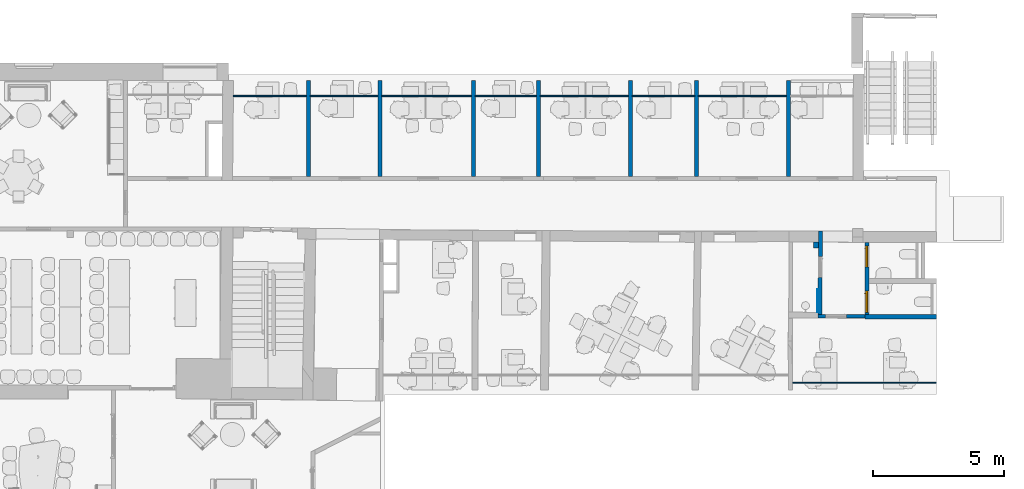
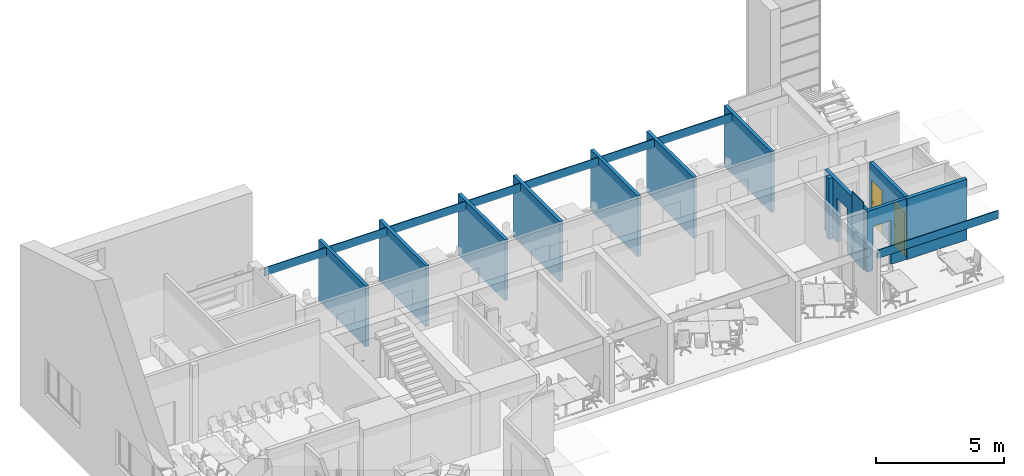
# One storey, part 6 of 19: 21 walls, 2 doors, 4 openings.
"""IFC2X3 building model written with IfcOpenShell, lengths in millimetres."""

from ifc_helpers import new_model, entity, si_unit, converted_unit, derived_unit, direction, frame, frame_2d, origin, place, context, subcontext, project, spatial, polyline, rectangle, outline, extrude, clip, bounded_halfspace, faceted_brep, source, transform, mapped, material, material_list, layer, layer_set, layer_usage, type_object, type_shapes, element, fill, save


model = new_model("IFC2X3")

# Units and contexts
model_context = context("Model", 3, precision=0.01, world=origin(), true_north=direction((6.12303176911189e-17, 1.0)))
context_of_model = context(None, 3, precision=0.01, world=origin(), true_north=direction((6.12303176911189e-17, 1.0)))
body_context = subcontext(model_context, "Body", "Model", "MODEL_VIEW")
ifc_project = project(units=[si_unit("LENGTHUNIT", "METRE", prefix="MILLI"), si_unit("AREAUNIT", "SQUARE_METRE"), si_unit("VOLUMEUNIT", "CUBIC_METRE"), converted_unit("PLANEANGLEUNIT", "DEGREE", entity("IfcRatioMeasure", 0.0174532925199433), si_unit("PLANEANGLEUNIT", "RADIAN"), dimensions=[0, 0, 0, 0, 0, 0, 0]), si_unit("MASSUNIT", "GRAM", prefix="KILO"), derived_unit("MASSDENSITYUNIT", [(si_unit("MASSUNIT", "GRAM", prefix="KILO"), 1), (si_unit("LENGTHUNIT", "METRE"), -3)]), si_unit("TIMEUNIT", "SECOND"), si_unit("FREQUENCYUNIT", "HERTZ"), si_unit("THERMODYNAMICTEMPERATUREUNIT", "DEGREE_CELSIUS"), derived_unit("THERMALTRANSMITTANCEUNIT", [(si_unit("MASSUNIT", "GRAM", prefix="KILO"), 1), (si_unit("THERMODYNAMICTEMPERATUREUNIT", "KELVIN"), -1), (si_unit("TIMEUNIT", "SECOND"), -3)]), derived_unit("VOLUMETRICFLOWRATEUNIT", [(si_unit("LENGTHUNIT", "METRE"), 3), (si_unit("TIMEUNIT", "SECOND"), -1)]), si_unit("ELECTRICCURRENTUNIT", "AMPERE"), si_unit("ELECTRICVOLTAGEUNIT", "VOLT"), si_unit("POWERUNIT", "WATT"), si_unit("FORCEUNIT", "NEWTON", prefix="KILO"), si_unit("ILLUMINANCEUNIT", "LUX"), si_unit("LUMINOUSFLUXUNIT", "LUMEN"), si_unit("LUMINOUSINTENSITYUNIT", "CANDELA"), derived_unit("USERDEFINED", [(si_unit("MASSUNIT", "GRAM", prefix="KILO"), -1), (si_unit("LENGTHUNIT", "METRE"), -2), (si_unit("TIMEUNIT", "SECOND"), 3), (si_unit("LUMINOUSFLUXUNIT", "LUMEN"), 1)]), derived_unit("LINEARVELOCITYUNIT", [(si_unit("LENGTHUNIT", "METRE"), 1), (si_unit("TIMEUNIT", "SECOND"), -1)]), si_unit("PRESSUREUNIT", "PASCAL"), derived_unit("USERDEFINED", [(si_unit("LENGTHUNIT", "METRE"), -2), (si_unit("MASSUNIT", "GRAM", prefix="KILO"), 1), (si_unit("TIMEUNIT", "SECOND"), -2)])], contexts=[model_context, context_of_model])

# Site, building, storey
site_placement = place(None, frame((121442.264707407, 135347.995453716, -1800.0)))
site = spatial("IfcSite", under=ifc_project, at=site_placement, Name="Surface", CompositionType="ELEMENT")
building_placement = place(site_placement, origin())
building = spatial("IfcBuilding", under=site, at=building_placement, CompositionType="ELEMENT")
storey_placement = place(building_placement, frame((0.0, 0.0, 5125.0)))
storey = spatial("IfcBuildingStorey", under=building, at=storey_placement, Name="2 korrus", CompositionType="ELEMENT", Elevation=5125.00000000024)

# Wall, opening
ifc_material_1 = material(Name="__Betoonelement")
ifc_layer_1 = layer(ifc_material_1, 150.0)
ifc_layer_set_1 = layer_set([ifc_layer_1], Name="Basic Wall:15_Betoon")
ifc_layer_usage_1 = layer_usage(ifc_layer_set_1, "AXIS2", "POSITIVE", -75.0)
wall_type_1 = type_object("IfcWallType", Name="Basic Wall:15_Betoon", PredefinedType="STANDARD", material=ifc_layer_set_1)
wall_1_placement = place(storey_placement, frame((-86953.8739707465, -124254.880032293, 0.0), z_axis=(0.0, 0.0, 1.0), x_axis=(0.00526575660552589, 0.999986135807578, 0.0)))
wall_1 = element("IfcWallStandardCase", 1, at=wall_1_placement, inside=storey, type_object=wall_type_1, material=ifc_layer_usage_1, Name="Basic Wall:15_Betoon", ObjectType="Basic Wall:15_Betoon", context=body_context, shape_type="Clipping", body=[
    clip(clip(clip(extrude(outline(polyline([(0.789874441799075, -75.0), (3181.96077080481, -75.0), (3181.17089636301, 75.0), (2771.16521197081, 75.0), (2531.1685393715, 73.7362184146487), (2531.161884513, 75.0), (80.1818955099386, 75.0), (0.0, 75.0), (0.789874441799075, -75.0)])), origin(), (0.0, 0.0, 1.0), 2897.0), bounded_halfspace(frame((0.789874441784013, -75.0, 2897.0), z_axis=(0.0, 0.0, -1.0), x_axis=(-0.999986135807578, -0.00526575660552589, 0.0)), True, frame((0.789874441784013, -75.0, 2897.0)), polyline([(0.0, 0.0), (3181.17089636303, 0.0), (3180.38102192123, 150.0), (2770.37533752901, 150.0), (2530.3786649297, 148.736218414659), (2530.37201007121, 150.0), (79.3920210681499, 150.0), (-0.789874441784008, 150.0), (0.0, 0.0)]))), bounded_halfspace(frame((2531.16853937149, 73.7362184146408, 0.0), z_axis=(0.00526575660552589, -0.999986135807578, 0.0), x_axis=(0.999986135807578, 0.00526575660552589, 0.0)), True, frame((2531.16853937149, 73.7362184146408, 0.0), z_axis=(0.00526575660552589, -0.999986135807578, 0.0), x_axis=(0.999986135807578, 0.00526575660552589, 0.0)), polyline([(0.0, 0.0), (240.0, 0.0), (240.0, 2897.0), (0.0, 2897.0), (0.0, 0.0)]))), bounded_halfspace(frame((2531.16853937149, 73.7362184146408, 2897.0), z_axis=(-0.999986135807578, -0.00526575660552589, 0.0), x_axis=(0.00526575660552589, -0.999986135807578, 0.0)), True, frame((2531.16853937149, 73.7362184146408, 2897.0), z_axis=(-0.999986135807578, -0.00526575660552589, 0.0), x_axis=(0.00526575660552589, -0.999986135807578, 0.0)), polyline([(0.0, 0.0), (-1.26379910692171, 0.0), (-1.26379910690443, -2897.0), (0.0, -2897.0), (0.0, 0.0)]))),
])
opening_1_placement = place(wall_1_placement, frame((2214.42491058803, 75.0, 0.0)))
element("IfcOpeningElement", 2, at=opening_1_placement, cuts=wall_1, Name="sma_D01:810 x 2110_SU-04 Siseuks:1", ObjectType="Opening", context=body_context, shape_type="SweptSolid", body=[
    extrude(rectangle(XDim=2099.99999999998, YDim=810.0, at=frame_2d((1049.99999999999, 405.0), x_axis=(1.0, 0.0))), frame((0.0, 0.0, 0.0), z_axis=(0.0, -1.0, 0.0), x_axis=(0.0, 0.0, 1.0)), (0.0, 0.0, 1.0), 150.0),
])

ifc_layer_2 = layer(ifc_material_1, 140.0)
ifc_layer_set_2 = layer_set([ifc_layer_2], Name="Basic Wall:14_Betoon 2")
ifc_layer_usage_2 = layer_usage(ifc_layer_set_2, "AXIS2", "NEGATIVE", 70.0)
wall_type_2 = type_object("IfcWallType", Name="Basic Wall:14_Betoon 2", PredefinedType="STANDARD", material=ifc_layer_set_2)
wall_2_placement = place(storey_placement, frame((-85235.5367302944, -124324.485100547, 0.0), z_axis=(0.0, 0.0, 1.0), x_axis=(-1.0, 0.0, 0.0)))
wall_2 = element("IfcWallStandardCase", 3, at=wall_2_placement, inside=storey, type_object=wall_type_2, material=ifc_layer_usage_2, Name="Basic Wall:14_Betoon 2", ObjectType="Basic Wall:14_Betoon 2", context=body_context, shape_type="Clipping", body=[
    clip(extrude(outline(polyline([(0.0, -70.0), (1643.33412097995, -70.0), (1793.33620063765, -70.0), (1794.07341678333, 70.0), (0.0, 70.0), (0.0, -69.6079082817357), (0.0, -70.0)])), origin(), (0.0, 0.0, 1.0), 2897.0), bounded_halfspace(frame((0.0, -70.0, 2897.0), z_axis=(0.0, 0.0, -1.0), x_axis=(0.0, 1.0, 0.0)), True, frame((0.0, -70.0, 2897.0)), polyline([(0.0, 0.0), (1643.33412097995, 0.0), (1793.33620063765, 0.0), (1794.07341678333, 140.0), (0.0, 140.0), (0.0, 0.392091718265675), (0.0, 0.0)]))),
])
opening_2_placement = place(wall_2_placement, frame((1518.6388440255, 70.0, 0.0)))
element("IfcOpeningElement", 4, at=opening_2_placement, cuts=wall_2, Name="sma_D01:810 x 2110_SU-01 Siseuks:1", ObjectType="Opening", context=body_context, shape_type="SweptSolid", body=[
    extrude(rectangle(XDim=2099.99999999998, YDim=810.0, at=frame_2d((1049.99999999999, 405.000000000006), x_axis=(1.0, 0.0))), frame((0.0, 0.0, 0.0), z_axis=(0.0, -1.0, 0.0), x_axis=(0.0, 0.0, 1.0)), (0.0, 0.0, 1.0), 140.0),
])

# Walls
ifc_layer_3 = layer(ifc_material_1, 180.0)
ifc_layer_set_3 = layer_set([ifc_layer_3], Name="Basic Wall:18_Betoon 3")
ifc_layer_usage_3 = layer_usage(ifc_layer_set_3, "AXIS2", "NEGATIVE", 90.0)
wall_type_3 = type_object("IfcWallType", Name="Basic Wall:18_Betoon 3", PredefinedType="STANDARD", material=ifc_layer_set_3)
wall_3_placement = place(storey_placement, frame((-87104.2806494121, -121483.35830855, 0.0), z_axis=(0.0, 0.0, 1.0), x_axis=(0.0, -1.0, 0.0)))
element("IfcWallStandardCase", 5, at=wall_3_placement, inside=storey, type_object=wall_type_3, material=ifc_layer_usage_3, Name="Basic Wall:18_Betoon 3", ObjectType="Basic Wall:18_Betoon 3", context=body_context, shape_type="Clipping", body=[
    clip(extrude(rectangle(XDim=239.999999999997, YDim=179.999999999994, at=frame_2d((119.999999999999, 0.0), x_axis=(-1.0, 0.0))), origin(), (0.0, 0.0, 1.0), 2897.0), bounded_halfspace(frame((0.0, -90.0, 2897.0), z_axis=(0.0, 0.0, -1.0), x_axis=(1.0, 0.0, 0.0)), True, frame((0.0, -90.0, 2897.0)), polyline([(0.0, 0.0), (240.0, 0.0), (240.0, 178.736200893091), (240.0, 180.0), (0.0, 180.0), (0.0, 0.0)]))),
])
ifc_material_2 = material(Name="NCS S 2570-R Syvä punainen, matta, ruisku")
ifc_layer_4 = layer(ifc_material_2, 1.0)
ifc_layer_5 = layer(ifc_material_1, 170.0)
ifc_layer_set_4 = layer_set([ifc_layer_4, ifc_layer_5], Name="Basic Wall:17_Betoon")
ifc_layer_usage_4 = layer_usage(ifc_layer_set_4, "AXIS2", "NEGATIVE", 85.5)
wall_type_4 = type_object("IfcWallType", Name="Basic Wall:17_Betoon", PredefinedType="NOTDEFINED")
wall_4_placement = place(storey_placement, frame((-82525.9803800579, -124340.377192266, 0.0), z_axis=(0.0, 0.0, 1.0), x_axis=(-1.0, 0.0, 0.0)))
element("IfcWallStandardCase", 6, at=wall_4_placement, inside=storey, type_object=wall_type_4, material=ifc_layer_usage_4, Name="Basic Wall:17_Betoon", ObjectType="Basic Wall:17_Betoon", context=body_context, shape_type="Clipping", body=[
    clip(extrude(rectangle(XDim=2709.55635023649, YDim=171.000000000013, at=frame_2d((1354.77817511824, -1.76925141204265e-12), x_axis=(-1.0, 0.0))), origin(), (0.0, 0.0, 1.0), 2897.0), bounded_halfspace(frame((0.0, -85.4999999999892, 2897.0), z_axis=(0.0, 0.0, -1.0), x_axis=(0.0, 1.0, 0.0)), True, frame((0.0, -85.4999999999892, 2897.0)), polyline([(0.0, 0.0), (2709.55635023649, 0.0), (2709.55635023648, 139.607908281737), (2709.55635023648, 171.0), (0.0, 171.0), (0.0, 0.0)]))),
])
ifc_layer_6 = layer(ifc_material_1, 30.0)
ifc_layer_set_5 = layer_set([ifc_layer_6], Name="Basic Wall:3_Betoon 3")
ifc_layer_usage_5 = layer_usage(ifc_layer_set_5, "AXIS2", "POSITIVE", -15.0)
wall_type_5 = type_object("IfcWallType", Name="Basic Wall:3_Betoon 3", PredefinedType="STANDARD", material=ifc_layer_set_5)
wall_5_placement = place(storey_placement, frame((-87043.450503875, -124174.225188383, 0.0), z_axis=(0.0, 0.0, 1.0), x_axis=(0.00527522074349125, 0.999986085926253, 0.0)))
element("IfcWallStandardCase", 7, at=wall_5_placement, inside=storey, type_object=wall_type_5, material=ifc_layer_usage_5, Name="Basic Wall:3_Betoon 3", ObjectType="Basic Wall:3_Betoon 3", context=body_context, shape_type="SweptSolid", body=[
    extrude(outline(polyline([(888.678367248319, -15.0), (888.678367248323, 15.0), (0.240895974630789, 15.0), (0.0, -15.0), (888.678367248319, -15.0)])), origin(), (0.0, 0.0, 1.0), 3215.0),
])

# Wall, openings, doors
ifc_material_3 = material(Name="Plaster")
ifc_layer_7 = layer(ifc_material_3, 10.0)
ifc_material_4 = material(Name="EST. Müüritis. Väikeplokk. Kergkruusplokk")
ifc_layer_8 = layer(ifc_material_4, 130.0)
ifc_layer_9 = layer(ifc_material_3, 10.0)
ifc_layer_set_6 = layer_set([ifc_layer_7, ifc_layer_8, ifc_layer_9], Name="Basic Wall:15_FIBO")
ifc_layer_usage_6 = layer_usage(ifc_layer_set_6, "AXIS2", "POSITIVE", -75.0)
wall_type_6 = type_object("IfcWallType", Name="Basic Wall:15_FIBO", PredefinedType="STANDARD", material=ifc_layer_set_6)
wall_6_placement = place(storey_placement, frame((-85160.5367302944, -121507.905996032, 0.0), z_axis=(0.0, 0.0, 1.0), x_axis=(0.0, -1.0, 0.0)))
wall_6 = element("IfcWallStandardCase", 8, at=wall_6_placement, inside=storey, type_object=wall_type_6, material=ifc_layer_usage_6, Name="Basic Wall:15_FIBO", ObjectType="Basic Wall:15_FIBO", context=body_context, shape_type="Clipping", body=[
    clip(extrude(outline(polyline([(0.511416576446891, -75.0), (2746.97119623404, -75.0), (2746.97119623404, 75.0), (0.0, 75.0), (0.511416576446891, -75.0)])), origin(), (0.0, 0.0, 1.0), 2897.0), bounded_halfspace(frame((0.511416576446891, -75.0, 2897.0), z_axis=(0.0, 0.0, -1.0), x_axis=(1.0, 0.0, 0.0)), True, frame((0.511416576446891, -75.0, 2897.0)), polyline([(0.0, 0.0), (2746.45977965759, 0.0), (2746.45977965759, 150.0), (-0.511416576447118, 150.0), (0.0, 0.0)]))),
])
opening_3_placement = place(wall_6_placement, frame((944.461071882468, 75.0, 0.0)))
opening_3 = element("IfcOpeningElement", 9, at=opening_3_placement, cuts=wall_6, Name="sma_D01:810 x 2110_SU-04 Siseuks:1", ObjectType="Opening", context=body_context, shape_type="SweptSolid", body=[
    extrude(rectangle(XDim=2099.99999999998, YDim=810.0, at=frame_2d((1049.99999999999, 405.000000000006), x_axis=(1.0, 0.0))), frame((0.0, 0.0, 0.0), z_axis=(0.0, -1.0, 0.0), x_axis=(0.0, 0.0, 1.0)), (0.0, 0.0, 1.0), 150.0),
])
opening_4_placement = place(wall_6_placement, frame((2668.65956877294, 75.0, 0.0)))
opening_4 = element("IfcOpeningElement", 10, at=opening_4_placement, cuts=wall_6, Name="sma_D01:810 x 2110_SU-04 Siseuks:1", ObjectType="Opening", context=body_context, shape_type="SweptSolid", body=[
    extrude(rectangle(XDim=2099.99999999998, YDim=810.0, at=frame_2d((1049.99999999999, 405.000000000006), x_axis=(1.0, 0.0))), frame((0.0, 0.0, 0.0), z_axis=(0.0, -1.0, 0.0), x_axis=(0.0, 0.0, 1.0)), (0.0, 0.0, 1.0), 150.0),
])
ifc_material_5 = material(Name="Metal - Aluminium")
ifc_material_6 = material(Name="Door - Panel_valge")
ifc_material_list_1 = material_list([ifc_material_5, ifc_material_6])
ifc_material_list_2 = material_list([ifc_material_5, ifc_material_6])
door_style = type_object("IfcDoorStyle", Name="810 x 2110_SU-04 Siseuks", ConstructionType="NOTDEFINED", OperationType="SINGLE_SWING_LEFT", ParameterTakesPrecedence=False, Sizeable=False, material=ifc_material_list_2)
shared_shape = source(origin(), body_context, "Body", "Brep", [
    faceted_brep([(710.0, 40.0, 1112.5), (615.0, 40.0, 1112.5), (615.0, 35.0, 1112.5), (735.0, 35.0, 1112.5), (735.0, 78.0, 1112.5), (710.0, 78.0, 1112.5), (710.0, 40.0, 1087.5), (710.0, 78.0, 1087.5), (735.0, 78.0, 1087.5), (735.0, 35.0, 1087.5), (615.0, 35.0, 1087.5), (615.0, 40.0, 1087.5)], [[[0, 1, 2, 3, 4, 5]], [[6, 7, 8, 9, 10, 11]], [[5, 7, 6, 0]], [[4, 8, 7, 5]], [[3, 9, 8, 4]], [[2, 10, 9, 3]], [[1, 11, 10, 2]], [[0, 6, 11, 1]]]),
    faceted_brep([(697.500000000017, 78.0, 1137.5), (747.500000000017, 78.0, 1137.5), (747.500000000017, 80.0, 1137.5), (697.500000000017, 80.0, 1137.5), (697.500000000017, 78.0, 1017.5), (697.500000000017, 80.0, 1017.5), (747.500000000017, 80.0, 1017.5), (747.500000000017, 78.0, 1017.5)], [[[0, 1, 2, 3]], [[4, 5, 6, 7]], [[3, 5, 4, 0]], [[2, 6, 5, 3]], [[1, 7, 6, 2]], [[0, 4, 7, 1]]]),
    faceted_brep([(710.0, 170.0, 1112.5), (710.0, 132.0, 1112.5), (735.0, 132.0, 1112.5), (735.0, 175.0, 1112.5), (615.0, 175.0, 1112.5), (615.0, 170.0, 1112.5), (710.0, 170.0, 1087.5), (615.0, 170.0, 1087.5), (615.0, 175.0, 1087.5), (735.0, 175.0, 1087.5), (735.0, 132.0, 1087.5), (710.0, 132.0, 1087.5)], [[[0, 1, 2, 3, 4, 5]], [[6, 7, 8, 9, 10, 11]], [[1, 0, 6, 11]], [[2, 1, 11, 10]], [[3, 2, 10, 9]], [[4, 3, 9, 8]], [[5, 4, 8, 7]], [[0, 5, 7, 6]]]),
    faceted_brep([(697.500000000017, 132.0, 1137.5), (697.500000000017, 130.0, 1137.5), (747.500000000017, 130.0, 1137.5), (747.500000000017, 132.0, 1137.5), (697.500000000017, 132.0, 1017.5), (747.500000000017, 132.0, 1017.5), (747.500000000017, 130.0, 1017.5), (697.500000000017, 130.0, 1017.5)], [[[0, 1, 2, 3]], [[4, 5, 6, 7]], [[1, 0, 4, 7]], [[2, 1, 7, 6]], [[3, 2, 6, 5]], [[0, 3, 5, 4]]]),
    faceted_brep([(0.0, 40.0, 0.0), (0.0, 130.0, 0.0), (25.0, 130.0, 0.0), (25.0, 80.0, 0.0), (40.0, 80.0, 0.0), (40.0, 40.0, 0.0), (40.0, 40.0, 2060.0), (770.0, 40.0, 2060.0), (770.0, 40.0, 0.0), (810.0, 40.0, 0.0), (810.0, 40.0, 2100.0), (0.0, 40.0, 2100.0), (40.0, 80.0, 2060.0), (25.0, 80.0, 2075.0), (785.0, 80.0, 2075.0), (785.0, 80.0, 0.0), (770.0, 80.0, 0.0), (770.0, 80.0, 2060.0), (25.0, 130.0, 2075.0), (0.0, 130.0, 2100.0), (810.0, 130.0, 2100.0), (810.0, 130.0, 0.0), (785.0, 130.0, 0.0), (785.0, 130.0, 2075.0)], [[[0, 1, 2, 3, 4, 5]], [[5, 6, 7, 8, 9, 10, 11, 0]], [[4, 12, 6, 5]], [[3, 13, 14, 15, 16, 17, 12, 4]], [[2, 18, 13, 3]], [[1, 19, 20, 21, 22, 23, 18, 2]], [[0, 11, 19, 1]], [[10, 9, 21, 20]], [[9, 8, 16, 15, 22, 21]], [[17, 16, 8, 7]], [[23, 22, 15, 14]], [[12, 17, 7, 6]], [[18, 23, 14, 13]], [[11, 10, 20, 19]]]),
    faceted_brep([(785.0, 80.0, 2075.0), (25.0, 80.0, 2075.0), (25.0, 80.0, 20.0), (785.0, 80.0, 20.0), (785.0, 130.0, 2075.0), (785.0, 130.0, 20.0), (25.0, 130.0, 20.0), (25.0, 130.0, 2075.0)], [[[0, 1, 2, 3]], [[4, 5, 6, 7]], [[3, 5, 4, 0]], [[2, 6, 5, 3]], [[1, 7, 6, 2]], [[0, 4, 7, 1]]]),
    faceted_brep([(40.0, 40.0, 30.0), (40.0, 80.0, 30.0), (40.0, 80.0, 20.0), (40.0, 80.0, 0.0), (40.0, 40.0, 0.0), (770.0, 40.0, 30.0), (770.0, 40.0, 0.0), (770.0, 80.0, 0.0), (770.0, 80.0, 20.0), (770.0, 80.0, 30.0), (25.0, 80.0, 0.0), (25.0, 130.0, 0.0), (785.0, 130.0, 0.0), (785.0, 80.0, 0.0), (25.0, 130.0, 20.0), (25.0, 80.0, 20.0), (785.0, 130.0, 20.0), (785.0, 80.0, 20.0)], [[[0, 1, 2, 3, 4]], [[5, 6, 7, 8, 9]], [[4, 6, 5, 0]], [[3, 10, 11, 12, 13, 7, 6, 4]], [[9, 8, 2, 1]], [[0, 5, 9, 1]], [[14, 11, 10, 15]], [[16, 17, 13, 12]], [[15, 2, 8, 17, 16, 14]], [[10, 3, 2, 15]], [[14, 16, 12, 11]], [[17, 8, 7, 13]]]),
])
type_shapes(door_style, [shared_shape])
door_1_placement = place(opening_3_placement, frame((0.0, 0.0, 0.0), z_axis=(0.0, 0.0, 1.0), x_axis=(-1.0, 0.0, 0.0)))
door_1 = element("IfcDoor", 11, at=door_1_placement, inside=storey, type_object=door_style, material=ifc_material_list_1, Name="sma_D01:810 x 2110_SU-04 Siseuks", ObjectType="810 x 2110_SU-04 Siseuks", OverallHeight=2099.99999999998, OverallWidth=810.000000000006, context=body_context, shape_type="MappedRepresentation", body=[
    mapped(shared_shape, transform((0.0, 0.0, 0.0), scale=1.0)),
])
fill(opening_3, door_1)
ifc_material_list_3 = material_list([ifc_material_5, ifc_material_6])
door_2_placement = place(opening_4_placement, frame((0.0, 0.0, 0.0), z_axis=(0.0, 0.0, 1.0), x_axis=(-1.0, 0.0, 0.0)))
door_2 = element("IfcDoor", 12, at=door_2_placement, inside=storey, type_object=door_style, material=ifc_material_list_3, Name="sma_D01:810 x 2110_SU-04 Siseuks", ObjectType="810 x 2110_SU-04 Siseuks", OverallHeight=2099.99999999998, OverallWidth=810.000000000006, context=body_context, shape_type="MappedRepresentation", body=[
    mapped(shared_shape, transform((0.0, 0.0, 0.0), scale=1.0)),
])
fill(opening_4, door_2)

# Walls
ifc_layer_usage_7 = layer_usage(ifc_layer_set_6, "AXIS2", "POSITIVE", -75.0)
wall_7_placement = place(storey_placement, frame((-88160.7565439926, -118999.337196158, 0.0), z_axis=(0.0, 0.0, 1.0), x_axis=(0.0, 1.0, 0.0)))
element("IfcWallStandardCase", 13, at=wall_7_placement, inside=storey, type_object=wall_type_6, material=ifc_layer_usage_7, Name="Basic Wall:15_FIBO", ObjectType="Basic Wall:15_FIBO", context=body_context, shape_type="Clipping", body=[
    clip(extrude(rectangle(XDim=3657.41808381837, YDim=150.000000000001, at=frame_2d((1828.70904190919, 0.0), x_axis=(-1.0, 0.0))), origin(), (0.0, 0.0, 1.0), 2897.0), bounded_halfspace(frame((0.0, -75.0, 2897.0), z_axis=(0.0, 0.0, -1.0), x_axis=(-1.0, 0.0, 0.0)), True, frame((0.0, -75.0, 2897.0)), polyline([(0.0, 0.0), (3657.41808381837, 0.0), (3657.41808381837, 150.0), (0.0, 150.0), (0.0, 0.0)]))),
])
ifc_layer_usage_8 = layer_usage(ifc_layer_set_6, "AXIS2", "POSITIVE", -75.0)
wall_8_placement = place(storey_placement, frame((-91659.3414792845, -118999.337196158, 0.0), z_axis=(0.0, 0.0, 1.0), x_axis=(0.0, 1.0, 0.0)))
element("IfcWallStandardCase", 14, at=wall_8_placement, inside=storey, type_object=wall_type_6, material=ifc_layer_usage_8, Name="Basic Wall:15_FIBO", ObjectType="Basic Wall:15_FIBO", context=body_context, shape_type="Clipping", body=[
    clip(extrude(rectangle(XDim=3657.41808381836, YDim=150.000000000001, at=frame_2d((1828.70904190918, 0.0), x_axis=(-1.0, 0.0))), origin(), (0.0, 0.0, 1.0), 2897.0), bounded_halfspace(frame((0.0, -75.0, 2897.0), z_axis=(0.0, 0.0, -1.0), x_axis=(-1.0, 0.0, 0.0)), True, frame((0.0, -75.0, 2897.0)), polyline([(0.0, 0.0), (3657.41808381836, 0.0), (3657.41808381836, 150.0), (0.0, 150.0), (0.0, 0.0)]))),
])
ifc_layer_usage_9 = layer_usage(ifc_layer_set_6, "AXIS2", "POSITIVE", -75.0)
wall_9_placement = place(storey_placement, frame((-94180.5045086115, -118999.337196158, 0.0), z_axis=(0.0, 0.0, 1.0), x_axis=(0.0, 1.0, 0.0)))
element("IfcWallStandardCase", 15, at=wall_9_placement, inside=storey, type_object=wall_type_6, material=ifc_layer_usage_9, Name="Basic Wall:15_FIBO", ObjectType="Basic Wall:15_FIBO", context=body_context, shape_type="Clipping", body=[
    clip(extrude(rectangle(XDim=3657.41808381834, YDim=150.000000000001, at=frame_2d((1828.70904190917, 0.0), x_axis=(-1.0, 0.0))), origin(), (0.0, 0.0, 1.0), 2897.0), bounded_halfspace(frame((0.0, -75.0, 2897.0), z_axis=(0.0, 0.0, -1.0), x_axis=(-1.0, 0.0, 0.0)), True, frame((0.0, -75.0, 2897.0)), polyline([(0.0, 0.0), (3657.41808381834, 0.0), (3657.41808381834, 150.0), (0.0, 150.0), (0.0, 0.0)]))),
])
ifc_layer_usage_10 = layer_usage(ifc_layer_set_6, "AXIS2", "POSITIVE", -75.0)
wall_10_placement = place(storey_placement, frame((-97680.5367302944, -118999.337196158, 0.0), z_axis=(0.0, 0.0, 1.0), x_axis=(0.0, 1.0, 0.0)))
element("IfcWallStandardCase", 16, at=wall_10_placement, inside=storey, type_object=wall_type_6, material=ifc_layer_usage_10, Name="Basic Wall:15_FIBO", ObjectType="Basic Wall:15_FIBO", context=body_context, shape_type="Clipping", body=[
    clip(extrude(rectangle(XDim=3657.41808381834, YDim=150.000000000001, at=frame_2d((1828.70904190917, 0.0), x_axis=(-1.0, 0.0))), origin(), (0.0, 0.0, 1.0), 2897.0), bounded_halfspace(frame((0.0, -75.0, 2897.0), z_axis=(0.0, 0.0, -1.0), x_axis=(-1.0, 0.0, 0.0)), True, frame((0.0, -75.0, 2897.0)), polyline([(0.0, 0.0), (3657.41808381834, 0.0), (3657.41808381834, 150.0), (0.0, 150.0), (0.0, 0.0)]))),
])
ifc_layer_usage_11 = layer_usage(ifc_layer_set_6, "AXIS2", "POSITIVE", -75.0)
wall_11_placement = place(storey_placement, frame((-100159.341479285, -118999.337196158, 0.0), z_axis=(0.0, 0.0, 1.0), x_axis=(0.0, 1.0, 0.0)))
element("IfcWallStandardCase", 17, at=wall_11_placement, inside=storey, type_object=wall_type_6, material=ifc_layer_usage_11, Name="Basic Wall:15_FIBO", ObjectType="Basic Wall:15_FIBO", context=body_context, shape_type="Clipping", body=[
    clip(extrude(rectangle(XDim=3657.41808381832, YDim=150.000000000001, at=frame_2d((1828.70904190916, 0.0), x_axis=(-1.0, 0.0))), origin(), (0.0, 0.0, 1.0), 2897.0), bounded_halfspace(frame((0.0, -75.0, 2897.0), z_axis=(0.0, 0.0, -1.0), x_axis=(-1.0, 0.0, 0.0)), True, frame((0.0, -75.0, 2897.0)), polyline([(0.0, 0.0), (3657.41808381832, 0.0), (3657.41808381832, 150.0), (0.0, 150.0), (0.0, 0.0)]))),
])
ifc_layer_usage_12 = layer_usage(ifc_layer_set_6, "AXIS2", "POSITIVE", -75.0)
wall_12_placement = place(storey_placement, frame((-103720.536730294, -118999.337196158, 0.0), z_axis=(0.0, 0.0, 1.0), x_axis=(0.0, 1.0, 0.0)))
element("IfcWallStandardCase", 18, at=wall_12_placement, inside=storey, type_object=wall_type_6, material=ifc_layer_usage_12, Name="Basic Wall:15_FIBO", ObjectType="Basic Wall:15_FIBO", context=body_context, shape_type="Clipping", body=[
    clip(extrude(rectangle(XDim=3657.41808381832, YDim=150.000000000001, at=frame_2d((1828.70904190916, 0.0), x_axis=(-1.0, 0.0))), origin(), (0.0, 0.0, 1.0), 2897.0), bounded_halfspace(frame((0.0, -75.0, 2897.0), z_axis=(0.0, 0.0, -1.0), x_axis=(-1.0, 0.0, 0.0)), True, frame((0.0, -75.0, 2897.0)), polyline([(0.0, 0.0), (3657.41808381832, 0.0), (3657.41808381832, 150.0), (0.0, 150.0), (0.0, 0.0)]))),
])
ifc_layer_usage_13 = layer_usage(ifc_layer_set_6, "AXIS2", "POSITIVE", -75.0)
wall_13_placement = place(storey_placement, frame((-106440.536730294, -118999.337196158, 0.0), z_axis=(0.0, 0.0, 1.0), x_axis=(0.0, 1.0, 0.0)))
element("IfcWallStandardCase", 19, at=wall_13_placement, inside=storey, type_object=wall_type_6, material=ifc_layer_usage_13, Name="Basic Wall:15_FIBO", ObjectType="Basic Wall:15_FIBO", context=body_context, shape_type="Clipping", body=[
    clip(extrude(rectangle(XDim=3657.41808381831, YDim=150.000000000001, at=frame_2d((1828.70904190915, 0.0), x_axis=(-1.0, 0.0))), origin(), (0.0, 0.0, 1.0), 2897.0), bounded_halfspace(frame((0.0, -75.0, 2897.0), z_axis=(0.0, 0.0, -1.0), x_axis=(-1.0, 0.0, 0.0)), True, frame((0.0, -75.0, 2897.0)), polyline([(0.0, 0.0), (3657.41808381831, 0.0), (3657.41808381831, 150.0), (0.0, 150.0), (0.0, 0.0)]))),
])
ifc_material_7 = material(Name="Metal - Stud Layer")
ifc_layer_10 = layer(ifc_material_7, 30.0)
ifc_material_8 = material(Name="Gypsum Wall Board")
ifc_layer_11 = layer(ifc_material_8, 13.0)
ifc_layer_set_7 = layer_set([ifc_layer_10, ifc_layer_11], Name="Basic Wall:Kipssirm 1 kordne")
ifc_layer_usage_14 = layer_usage(ifc_layer_set_7, "AXIS2", "POSITIVE", -21.5)
wall_type_7 = type_object("IfcWallType", Name="Basic Wall:Kipssirm 1 kordne", PredefinedType="STANDARD", material=ifc_layer_set_7)
wall_14_placement = place(storey_placement, frame((-109298.969355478, -115928.952432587, 2500.0)))
element("IfcWallStandardCase", 20, at=wall_14_placement, inside=storey, type_object=wall_type_7, material=ifc_layer_usage_14, Name="Basic Wall:Kipssirm 1 kordne", ObjectType="Basic Wall:Kipssirm 1 kordne", context=body_context, shape_type="SweptSolid", body=[
    extrude(outline(polyline([(2783.43262518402, -21.5000000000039), (2783.43262518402, 21.5000000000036), (0.426844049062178, 21.5000000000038), (0.0, -21.5000000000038), (2783.43262518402, -21.5000000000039)])), origin(), (0.0, 0.0, 1.0), 390.0),
])
ifc_layer_usage_15 = layer_usage(ifc_layer_set_7, "AXIS2", "POSITIVE", -21.5)
wall_15_placement = place(storey_placement, frame((-106365.536730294, -115928.952432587, 2500.0)))
element("IfcWallStandardCase", 21, at=wall_15_placement, inside=storey, type_object=wall_type_7, material=ifc_layer_usage_15, Name="Basic Wall:Kipssirm 1 kordne", ObjectType="Basic Wall:Kipssirm 1 kordne", context=body_context, shape_type="SweptSolid", body=[
    extrude(rectangle(XDim=2570.00000000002, YDim=43.0000000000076, at=frame_2d((1285.00000000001, -6.53699316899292e-13), x_axis=(-1.0, 0.0))), origin(), (0.0, 0.0, 1.0), 390.0),
])
ifc_layer_usage_16 = layer_usage(ifc_layer_set_7, "AXIS2", "POSITIVE", -21.5)
wall_16_placement = place(storey_placement, frame((-103645.536730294, -115928.952432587, 2500.0)))
element("IfcWallStandardCase", 22, at=wall_16_placement, inside=storey, type_object=wall_type_7, material=ifc_layer_usage_16, Name="Basic Wall:Kipssirm 1 kordne", ObjectType="Basic Wall:Kipssirm 1 kordne", context=body_context, shape_type="SweptSolid", body=[
    extrude(rectangle(XDim=3411.19525100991, YDim=43.0000000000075, at=frame_2d((1705.59762550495, 1.63247193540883e-12), x_axis=(-1.0, 0.0))), origin(), (0.0, 0.0, 1.0), 390.0),
])
ifc_layer_usage_17 = layer_usage(ifc_layer_set_7, "AXIS2", "POSITIVE", -21.5)
wall_17_placement = place(storey_placement, frame((-100084.341479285, -115928.952432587, 2500.0)))
element("IfcWallStandardCase", 23, at=wall_17_placement, inside=storey, type_object=wall_type_7, material=ifc_layer_usage_17, Name="Basic Wall:Kipssirm 1 kordne", ObjectType="Basic Wall:Kipssirm 1 kordne", context=body_context, shape_type="SweptSolid", body=[
    extrude(rectangle(XDim=2328.80474899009, YDim=43.0000000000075, at=frame_2d((1164.40237449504, -1.65911728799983e-12), x_axis=(-1.0, 0.0))), origin(), (0.0, 0.0, 1.0), 390.0),
])
ifc_layer_usage_18 = layer_usage(ifc_layer_set_7, "AXIS2", "POSITIVE", -21.5)
wall_18_placement = place(storey_placement, frame((-97605.5367302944, -115928.952432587, 2500.0)))
element("IfcWallStandardCase", 24, at=wall_18_placement, inside=storey, type_object=wall_type_7, material=ifc_layer_usage_18, Name="Basic Wall:Kipssirm 1 kordne", ObjectType="Basic Wall:Kipssirm 1 kordne", context=body_context, shape_type="SweptSolid", body=[
    extrude(rectangle(XDim=3350.03222168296, YDim=43.0000000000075, at=frame_2d((1675.01611084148, 1.95399252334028e-12), x_axis=(-1.0, 0.0))), origin(), (0.0, 0.0, 1.0), 390.0),
])
ifc_layer_usage_19 = layer_usage(ifc_layer_set_7, "AXIS2", "POSITIVE", -21.5)
wall_19_placement = place(storey_placement, frame((-94105.5045086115, -115928.952432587, 2500.0)))
element("IfcWallStandardCase", 25, at=wall_19_placement, inside=storey, type_object=wall_type_7, material=ifc_layer_usage_19, Name="Basic Wall:Kipssirm 1 kordne", ObjectType="Basic Wall:Kipssirm 1 kordne", context=body_context, shape_type="SweptSolid", body=[
    extrude(rectangle(XDim=2371.16302932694, YDim=43.0000000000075, at=frame_2d((1185.58151466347, -1.51878509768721e-12), x_axis=(-1.0, 0.0))), origin(), (0.0, 0.0, 1.0), 390.0),
])
ifc_layer_usage_20 = layer_usage(ifc_layer_set_7, "AXIS2", "POSITIVE", -21.5)
wall_20_placement = place(storey_placement, frame((-91584.3414792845, -115928.952432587, 2500.0)))
element("IfcWallStandardCase", 26, at=wall_20_placement, inside=storey, type_object=wall_type_7, material=ifc_layer_usage_20, Name="Basic Wall:Kipssirm 1 kordne", ObjectType="Basic Wall:Kipssirm 1 kordne", context=body_context, shape_type="SweptSolid", body=[
    extrude(rectangle(XDim=3348.58493529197, YDim=43.0000000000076, at=frame_2d((1674.29246764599, 1.37490019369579e-12), x_axis=(-1.0, 0.0))), origin(), (0.0, 0.0, 1.0), 390.0),
])
ifc_layer_usage_21 = layer_usage(ifc_layer_set_7, "AXIS2", "POSITIVE", -21.5)
wall_21_placement = place(storey_placement, frame((-87993.8420918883, -126857.481015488, 2500.0)))
element("IfcWallStandardCase", 27, at=wall_21_placement, inside=storey, type_object=wall_type_7, material=ifc_layer_usage_21, Name="Basic Wall:Kipssirm 1 kordne", ObjectType="Basic Wall:Kipssirm 1 kordne", context=body_context, shape_type="SweptSolid", body=[
    extrude(rectangle(XDim=5467.86171183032, YDim=43.0000000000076, at=frame_2d((2733.93085591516, 0.0), x_axis=(-1.0, 0.0))), origin(), (0.0, 0.0, 1.0), 390.0),
])

save(model, "model.ifc")
